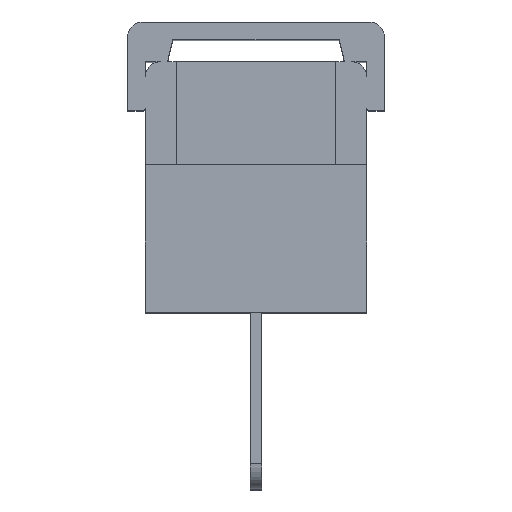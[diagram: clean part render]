
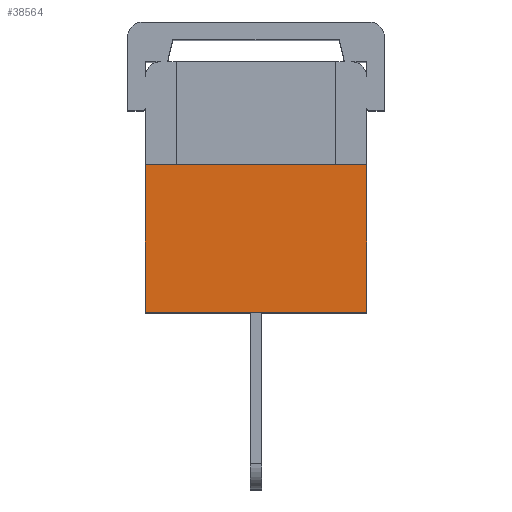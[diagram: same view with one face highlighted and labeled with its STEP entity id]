
A CAD part, top view. The second image highlights one B-rep face of the part: STEP entity #38564.
In plain terms, the highlighted planar face has unit normal (0, 0, 1).
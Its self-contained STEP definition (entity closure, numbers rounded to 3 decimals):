
#4589=DIRECTION('',(0.,1.,0.));
#4590=VECTOR('',#4589,10.);
#4591=CARTESIAN_POINT('',(0.,0.,0.));
#4592=LINE('',#4591,#4590);
#5234=DIRECTION('',(1.,0.,0.));
#5235=VECTOR('',#5234,15.);
#5236=CARTESIAN_POINT('',(0.,0.,0.));
#5237=LINE('',#5236,#5235);
#5238=DIRECTION('',(0.,1.,0.));
#5239=VECTOR('',#5238,10.);
#5240=CARTESIAN_POINT('',(15.,0.,0.));
#5241=LINE('',#5240,#5239);
#5284=DIRECTION('',(1.,0.,0.));
#5285=VECTOR('',#5284,15.);
#5286=CARTESIAN_POINT('',(0.,10.,0.));
#5287=LINE('',#5286,#5285);
#26393=CARTESIAN_POINT('',(0.,0.,0.));
#26394=VERTEX_POINT('',#26393);
#26395=CARTESIAN_POINT('',(15.,0.,0.));
#26396=VERTEX_POINT('',#26395);
#26447=CARTESIAN_POINT('',(15.,10.,0.));
#26448=VERTEX_POINT('',#26447);
#26459=CARTESIAN_POINT('',(0.,10.,0.));
#26460=VERTEX_POINT('',#26459);
#38552=CARTESIAN_POINT('',(7.5,0.,0.));
#38553=DIRECTION('',(0.,0.,-1.));
#38554=DIRECTION('',(-1.,0.,0.));
#38555=AXIS2_PLACEMENT_3D('',#38552,#38553,#38554);
#38556=PLANE('',#38555);
#38557=ORIENTED_EDGE('',*,*,#30979,.F.);
#38558=ORIENTED_EDGE('',*,*,#37765,.T.);
#38560=ORIENTED_EDGE('',*,*,#38559,.T.);
#38561=ORIENTED_EDGE('',*,*,#38532,.F.);
#38562=EDGE_LOOP('',(#38557,#38558,#38560,#38561));
#38563=FACE_OUTER_BOUND('',#38562,.F.);
#38564=ADVANCED_FACE('',(#38563),#38556,.F.);
#30979=EDGE_CURVE('',#26394,#26396,#5237,.T.);
#37765=EDGE_CURVE('',#26394,#26460,#4592,.T.);
#38532=EDGE_CURVE('',#26396,#26448,#5241,.T.);
#38559=EDGE_CURVE('',#26460,#26448,#5287,.T.);
